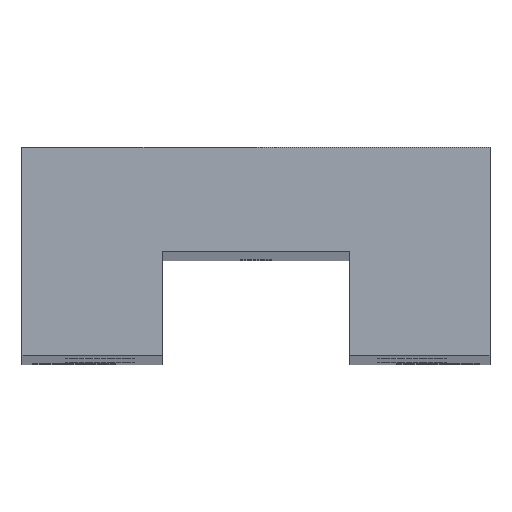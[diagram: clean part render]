
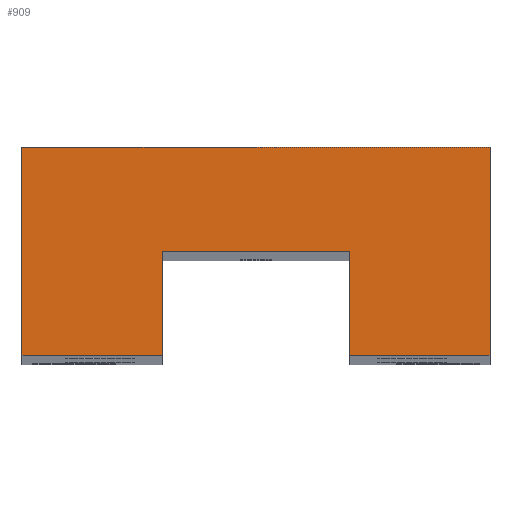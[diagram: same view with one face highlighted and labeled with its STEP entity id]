
A CAD part, top view. The second image highlights one B-rep face of the part: STEP entity #909.
In plain terms, the highlighted planar face has unit normal (0, 0, 1).
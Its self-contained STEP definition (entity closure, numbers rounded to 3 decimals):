
#165 = EDGE_CURVE ( 'NONE', #772, #167, #1574, .T. ) ;
#167 = VERTEX_POINT ( 'NONE', #1570 ) ;
#772 = VERTEX_POINT ( 'NONE', #2995 ) ;
#784 = VERTEX_POINT ( 'NONE', #3030 ) ;
#785 = EDGE_CURVE ( 'NONE', #784, #819, #3029, .T. ) ;
#816 = VERTEX_POINT ( 'NONE', #3111 ) ;
#818 = EDGE_CURVE ( 'NONE', #819, #816, #3110, .T. ) ;
#819 = VERTEX_POINT ( 'NONE', #3106 ) ;
#850 = EDGE_CURVE ( 'NONE', #851, #772, #3121, .T. ) ;
#851 = VERTEX_POINT ( 'NONE', #3117 ) ;
#894 = EDGE_CURVE ( 'NONE', #851, #972, #3241, .T. ) ;
#895 = ORIENTED_EDGE ( 'NONE', *, *, #850, .T. ) ;
#896 = ORIENTED_EDGE ( 'NONE', *, *, #165, .T. ) ;
#897 = ORIENTED_EDGE ( 'NONE', *, *, #907, .T. ) ;
#898 = ORIENTED_EDGE ( 'NONE', *, *, #785, .T. ) ;
#907 = EDGE_CURVE ( 'NONE', #167, #784, #3222, .T. ) ;
#909 = ADVANCED_FACE ( 'NONE', ( #3218 ), #3217, .F. ) ;
#910 = EDGE_LOOP ( 'NONE', ( #911, #967, #970, #973, #895, #896, #897, #898 ) ) ;
#911 = ORIENTED_EDGE ( 'NONE', *, *, #818, .T. ) ;
#967 = ORIENTED_EDGE ( 'NONE', *, *, #968, .F. ) ;
#968 = EDGE_CURVE ( 'NONE', #969, #816, #3333, .T. ) ;
#969 = VERTEX_POINT ( 'NONE', #3329 ) ;
#970 = ORIENTED_EDGE ( 'NONE', *, *, #971, .F. ) ;
#971 = EDGE_CURVE ( 'NONE', #972, #969, #3328, .T. ) ;
#972 = VERTEX_POINT ( 'NONE', #3324 ) ;
#973 = ORIENTED_EDGE ( 'NONE', *, *, #894, .F. ) ;
#1570 = CARTESIAN_POINT ( 'NONE',  ( 45., 20., 510. ) ) ;
#1571 = DIRECTION ( 'NONE',  ( 0., 1., 0. ) ) ;
#1572 = VECTOR ( 'NONE', #1571, 1000. ) ;
#1573 = CARTESIAN_POINT ( 'NONE',  ( 45., 0., 510. ) ) ;
#1574 = LINE ( 'NONE', #1573, #1572 ) ;
#2995 = CARTESIAN_POINT ( 'NONE',  ( 45., 0., 510. ) ) ;
#3026 = DIRECTION ( 'NONE',  ( 0., -1., 0. ) ) ;
#3027 = VECTOR ( 'NONE', #3026, 1000. ) ;
#3028 = CARTESIAN_POINT ( 'NONE',  ( 0., 0., 510. ) ) ;
#3029 = LINE ( 'NONE', #3028, #3027 ) ;
#3030 = CARTESIAN_POINT ( 'NONE',  ( 0., 20., 510. ) ) ;
#3106 = CARTESIAN_POINT ( 'NONE',  ( 0., 0., 510. ) ) ;
#3107 = DIRECTION ( 'NONE',  ( 1., 0., 0. ) ) ;
#3108 = VECTOR ( 'NONE', #3107, 1000. ) ;
#3109 = CARTESIAN_POINT ( 'NONE',  ( 0., 0., 510. ) ) ;
#3110 = LINE ( 'NONE', #3109, #3108 ) ;
#3111 = CARTESIAN_POINT ( 'NONE',  ( 13.5, 0., 510. ) ) ;
#3117 = CARTESIAN_POINT ( 'NONE',  ( 31.5, 0., 510. ) ) ;
#3118 = DIRECTION ( 'NONE',  ( 1., 0., 0. ) ) ;
#3119 = VECTOR ( 'NONE', #3118, 1000. ) ;
#3120 = CARTESIAN_POINT ( 'NONE',  ( 0., 0., 510. ) ) ;
#3121 = LINE ( 'NONE', #3120, #3119 ) ;
#3213 = DIRECTION ( 'NONE',  ( -1., 0., 0. ) ) ;
#3214 = DIRECTION ( 'NONE',  ( 0., 0., -1. ) ) ;
#3215 = CARTESIAN_POINT ( 'NONE',  ( 0., 20., 510. ) ) ;
#3216 = AXIS2_PLACEMENT_3D ( 'NONE', #3215, #3214, #3213 ) ;
#3217 = PLANE ( 'NONE',  #3216 ) ;
#3218 = FACE_OUTER_BOUND ( 'NONE', #910, .T. ) ;
#3219 = DIRECTION ( 'NONE',  ( -1., 0., 0. ) ) ;
#3220 = VECTOR ( 'NONE', #3219, 1000. ) ;
#3221 = CARTESIAN_POINT ( 'NONE',  ( 0., 20., 510. ) ) ;
#3222 = LINE ( 'NONE', #3221, #3220 ) ;
#3238 = DIRECTION ( 'NONE',  ( 0., 1., 0. ) ) ;
#3239 = VECTOR ( 'NONE', #3238, 1000. ) ;
#3240 = CARTESIAN_POINT ( 'NONE',  ( 31.5, 10., 510. ) ) ;
#3241 = LINE ( 'NONE', #3240, #3239 ) ;
#3324 = CARTESIAN_POINT ( 'NONE',  ( 31.5, 10., 510. ) ) ;
#3325 = DIRECTION ( 'NONE',  ( -1., 0., 0. ) ) ;
#3326 = VECTOR ( 'NONE', #3325, 1000. ) ;
#3327 = CARTESIAN_POINT ( 'NONE',  ( 13.5, 10., 510. ) ) ;
#3328 = LINE ( 'NONE', #3327, #3326 ) ;
#3329 = CARTESIAN_POINT ( 'NONE',  ( 13.5, 10., 510. ) ) ;
#3330 = DIRECTION ( 'NONE',  ( 0., -1., 0. ) ) ;
#3331 = VECTOR ( 'NONE', #3330, 1000. ) ;
#3332 = CARTESIAN_POINT ( 'NONE',  ( 13.5, 0., 510. ) ) ;
#3333 = LINE ( 'NONE', #3332, #3331 ) ;
